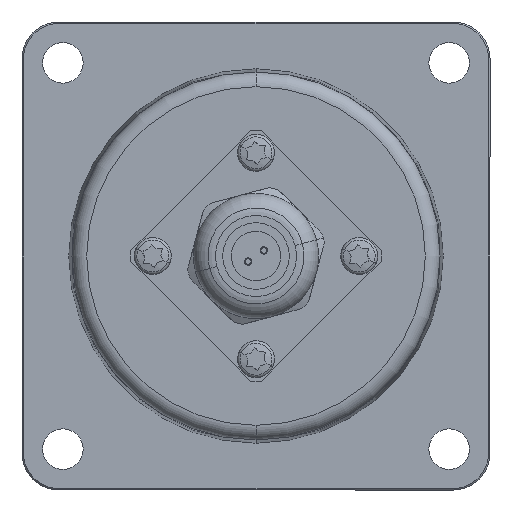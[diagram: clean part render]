
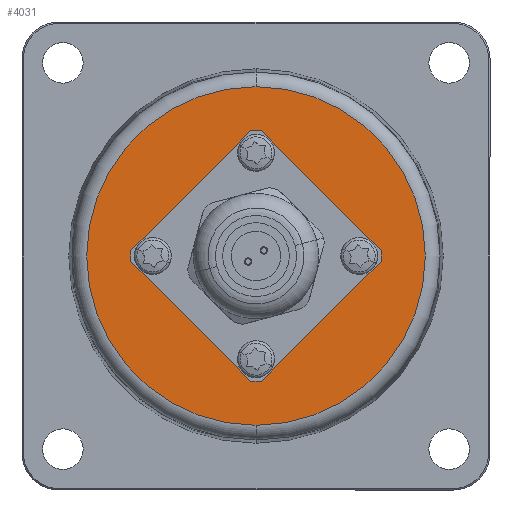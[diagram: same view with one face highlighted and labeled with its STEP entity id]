
A CAD part, left-side view. The second image highlights one B-rep face of the part: STEP entity #4031.
In plain terms, the highlighted planar face has unit normal (-1, 0, 0).
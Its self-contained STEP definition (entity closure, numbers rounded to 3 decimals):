
#103 = AXIS2_PLACEMENT_3D ( 'NONE', #109, #105, #116 ) ;
#105 = DIRECTION ( 'NONE',  ( 1., 0., 0. ) ) ;
#109 = CARTESIAN_POINT ( 'NONE',  ( -21., 0., 0. ) ) ;
#110 = PLANE ( 'NONE',  #103 ) ;
#116 = DIRECTION ( 'NONE',  ( 0., 0., -1. ) ) ;
#2799 = CARTESIAN_POINT ( 'NONE',  ( -21., 0., -22.972 ) ) ;
#2800 = DIRECTION ( 'NONE',  ( 0., 0., -1. ) ) ;
#2801 = DIRECTION ( 'NONE',  ( -1., 0., 0. ) ) ;
#2802 = CARTESIAN_POINT ( 'NONE',  ( -21., 0., 0. ) ) ;
#2803 = AXIS2_PLACEMENT_3D ( 'NONE', #2802, #2801, #2800 ) ;
#2804 = CIRCLE ( 'NONE', #2803, 22.972 ) ;
#2886 = DIRECTION ( 'NONE',  ( 0., 0., 1. ) ) ;
#2887 = DIRECTION ( 'NONE',  ( -1., 0., 0. ) ) ;
#2888 = CARTESIAN_POINT ( 'NONE',  ( -21., 0., 0. ) ) ;
#2889 = AXIS2_PLACEMENT_3D ( 'NONE', #2888, #2887, #2886 ) ;
#2890 = CIRCLE ( 'NONE', #2889, 11.5 ) ;
#2891 = CARTESIAN_POINT ( 'NONE',  ( -21., 0., 11.5 ) ) ;
#2892 = CARTESIAN_POINT ( 'NONE',  ( -21., 0., 15.389 ) ) ;
#3470 = DIRECTION ( 'NONE',  ( 0., 0., -1. ) ) ;
#3471 = DIRECTION ( 'NONE',  ( 1., 0., 0. ) ) ;
#3472 = CARTESIAN_POINT ( 'NONE',  ( -21., 0., 14.001 ) ) ;
#3473 = AXIS2_PLACEMENT_3D ( 'NONE', #3472, #3471, #3470 ) ;
#3474 = CIRCLE ( 'NONE', #3473, 1.389 ) ;
#3475 = CARTESIAN_POINT ( 'NONE',  ( -21., 14.001, -1.389 ) ) ;
#3476 = DIRECTION ( 'NONE',  ( 0., 0., -1. ) ) ;
#3477 = DIRECTION ( 'NONE',  ( 1., 0., 0. ) ) ;
#3478 = CARTESIAN_POINT ( 'NONE',  ( -21., 0., 14.001 ) ) ;
#3479 = AXIS2_PLACEMENT_3D ( 'NONE', #3478, #3477, #3476 ) ;
#3480 = CIRCLE ( 'NONE', #3479, 1.389 ) ;
#3481 = AXIS2_PLACEMENT_3D ( 'NONE', #3483, #3491, #3490 ) ;
#3483 = CARTESIAN_POINT ( 'NONE',  ( -21., 0., 0. ) ) ;
#3485 = DIRECTION ( 'NONE',  ( 0., 0., 1. ) ) ;
#3486 = DIRECTION ( 'NONE',  ( -1., 0., 0. ) ) ;
#3487 = CARTESIAN_POINT ( 'NONE',  ( -21., 0., 0. ) ) ;
#3488 = AXIS2_PLACEMENT_3D ( 'NONE', #3487, #3486, #3485 ) ;
#3489 = CIRCLE ( 'NONE', #3488, 11.5 ) ;
#3490 = DIRECTION ( 'NONE',  ( 0., 0., -1. ) ) ;
#3491 = DIRECTION ( 'NONE',  ( -1., 0., 0. ) ) ;
#3492 = CIRCLE ( 'NONE', #3481, 22.972 ) ;
#3493 = CARTESIAN_POINT ( 'NONE',  ( -21., 0., -11.5 ) ) ;
#3494 = CARTESIAN_POINT ( 'NONE',  ( -21., 0., 12.612 ) ) ;
#3503 = FACE_BOUND ( 'NONE', #3921, .T. ) ;
#3504 = FACE_OUTER_BOUND ( 'NONE', #3917, .T. ) ;
#3505 = FACE_BOUND ( 'NONE', #3879, .T. ) ;
#3506 = FACE_BOUND ( 'NONE', #4024, .T. ) ;
#3507 = FACE_BOUND ( 'NONE', #4027, .T. ) ;
#3508 = FACE_BOUND ( 'NONE', #4028, .T. ) ;
#3509 = CARTESIAN_POINT ( 'NONE',  ( -21., 0., -15.389 ) ) ;
#3510 = DIRECTION ( 'NONE',  ( 0., 0., -1. ) ) ;
#3511 = DIRECTION ( 'NONE',  ( 1., 0., 0. ) ) ;
#3512 = CARTESIAN_POINT ( 'NONE',  ( -21., 0., -14.001 ) ) ;
#3513 = AXIS2_PLACEMENT_3D ( 'NONE', #3512, #3511, #3510 ) ;
#3514 = CIRCLE ( 'NONE', #3513, 1.389 ) ;
#3516 = DIRECTION ( 'NONE',  ( 0., 0., -1. ) ) ;
#3517 = DIRECTION ( 'NONE',  ( 1., 0., 0. ) ) ;
#3518 = CARTESIAN_POINT ( 'NONE',  ( -21., -14.001, 0. ) ) ;
#3519 = AXIS2_PLACEMENT_3D ( 'NONE', #3518, #3517, #3516 ) ;
#3520 = CIRCLE ( 'NONE', #3519, 1.389 ) ;
#3521 = CARTESIAN_POINT ( 'NONE',  ( -21., -14.001, 1.389 ) ) ;
#3522 = CARTESIAN_POINT ( 'NONE',  ( -21., -14.001, -1.389 ) ) ;
#3523 = DIRECTION ( 'NONE',  ( 0., 0., -1. ) ) ;
#3524 = DIRECTION ( 'NONE',  ( 1., 0., 0. ) ) ;
#3525 = CARTESIAN_POINT ( 'NONE',  ( -21., -14.001, 0. ) ) ;
#3526 = AXIS2_PLACEMENT_3D ( 'NONE', #3525, #3524, #3523 ) ;
#3527 = CIRCLE ( 'NONE', #3526, 1.389 ) ;
#3528 = CARTESIAN_POINT ( 'NONE',  ( -21., 14.001, 1.389 ) ) ;
#3529 = DIRECTION ( 'NONE',  ( 0., 0., -1. ) ) ;
#3530 = DIRECTION ( 'NONE',  ( 1., 0., 0. ) ) ;
#3531 = CARTESIAN_POINT ( 'NONE',  ( -21., 14.001, 0. ) ) ;
#3532 = AXIS2_PLACEMENT_3D ( 'NONE', #3531, #3530, #3529 ) ;
#3533 = CIRCLE ( 'NONE', #3532, 1.389 ) ;
#3534 = DIRECTION ( 'NONE',  ( 0., 0., -1. ) ) ;
#3535 = DIRECTION ( 'NONE',  ( 1., 0., 0. ) ) ;
#3536 = CARTESIAN_POINT ( 'NONE',  ( -21., 14.001, 0. ) ) ;
#3537 = AXIS2_PLACEMENT_3D ( 'NONE', #3536, #3535, #3534 ) ;
#3538 = CIRCLE ( 'NONE', #3537, 1.389 ) ;
#3873 = EDGE_CURVE ( 'NONE', #4041, #3876, #2804, .T. ) ;
#3876 = VERTEX_POINT ( 'NONE', #2799 ) ;
#3879 = EDGE_LOOP ( 'NONE', ( #4017, #4007 ) ) ;
#3915 = ORIENTED_EDGE ( 'NONE', *, *, #3873, .T. ) ;
#3916 = VERTEX_POINT ( 'NONE', #2892 ) ;
#3917 = EDGE_LOOP ( 'NONE', ( #4010, #3915 ) ) ;
#3918 = ORIENTED_EDGE ( 'NONE', *, *, #4006, .F. ) ;
#3919 = VERTEX_POINT ( 'NONE', #2891 ) ;
#3920 = EDGE_CURVE ( 'NONE', #3919, #4005, #2890, .T. ) ;
#3921 = EDGE_LOOP ( 'NONE', ( #4004, #3918 ) ) ;
#4003 = VERTEX_POINT ( 'NONE', #3494 ) ;
#4004 = ORIENTED_EDGE ( 'NONE', *, *, #3920, .F. ) ;
#4005 = VERTEX_POINT ( 'NONE', #3493 ) ;
#4006 = EDGE_CURVE ( 'NONE', #4005, #3919, #3489, .T. ) ;
#4007 = ORIENTED_EDGE ( 'NONE', *, *, #4011, .T. ) ;
#4008 = EDGE_CURVE ( 'NONE', #3876, #4041, #3492, .T. ) ;
#4009 = EDGE_CURVE ( 'NONE', #4003, #3916, #3480, .T. ) ;
#4010 = ORIENTED_EDGE ( 'NONE', *, *, #4008, .T. ) ;
#4011 = EDGE_CURVE ( 'NONE', #3916, #4003, #3474, .T. ) ;
#4012 = VERTEX_POINT ( 'NONE', #3475 ) ;
#4013 = EDGE_CURVE ( 'NONE', #4016, #4012, #3538, .T. ) ;
#4014 = ORIENTED_EDGE ( 'NONE', *, *, #4013, .T. ) ;
#4015 = EDGE_CURVE ( 'NONE', #4012, #4016, #3533, .T. ) ;
#4016 = VERTEX_POINT ( 'NONE', #3528 ) ;
#4017 = ORIENTED_EDGE ( 'NONE', *, *, #4009, .T. ) ;
#4018 = ORIENTED_EDGE ( 'NONE', *, *, #4015, .T. ) ;
#4019 = EDGE_CURVE ( 'NONE', #4020, #4022, #3527, .T. ) ;
#4020 = VERTEX_POINT ( 'NONE', #3522 ) ;
#4021 = ORIENTED_EDGE ( 'NONE', *, *, #4023, .T. ) ;
#4022 = VERTEX_POINT ( 'NONE', #3521 ) ;
#4023 = EDGE_CURVE ( 'NONE', #4022, #4020, #3520, .T. ) ;
#4024 = EDGE_LOOP ( 'NONE', ( #4018, #4014 ) ) ;
#4025 = EDGE_CURVE ( 'NONE', #4034, #4030, #3514, .T. ) ;
#4026 = ORIENTED_EDGE ( 'NONE', *, *, #4019, .T. ) ;
#4027 = EDGE_LOOP ( 'NONE', ( #4026, #4021 ) ) ;
#4028 = EDGE_LOOP ( 'NONE', ( #4029, #4032 ) ) ;
#4029 = ORIENTED_EDGE ( 'NONE', *, *, #4033, .T. ) ;
#4030 = VERTEX_POINT ( 'NONE', #3509 ) ;
#4031 = ADVANCED_FACE ( 'NONE', ( #3508, #3507, #3506, #3505, #3504, #3503 ), #110, .F. ) ;
#4032 = ORIENTED_EDGE ( 'NONE', *, *, #4025, .T. ) ;
#4033 = EDGE_CURVE ( 'NONE', #4030, #4034, #4862, .T. ) ;
#4034 = VERTEX_POINT ( 'NONE', #4857 ) ;
#4041 = VERTEX_POINT ( 'NONE', #4840 ) ;
#4840 = CARTESIAN_POINT ( 'NONE',  ( -21., 0., 22.972 ) ) ;
#4857 = CARTESIAN_POINT ( 'NONE',  ( -21., 0., -12.612 ) ) ;
#4858 = DIRECTION ( 'NONE',  ( 0., 0., -1. ) ) ;
#4859 = DIRECTION ( 'NONE',  ( 1., 0., 0. ) ) ;
#4860 = CARTESIAN_POINT ( 'NONE',  ( -21., 0., -14.001 ) ) ;
#4861 = AXIS2_PLACEMENT_3D ( 'NONE', #4860, #4859, #4858 ) ;
#4862 = CIRCLE ( 'NONE', #4861, 1.389 ) ;
